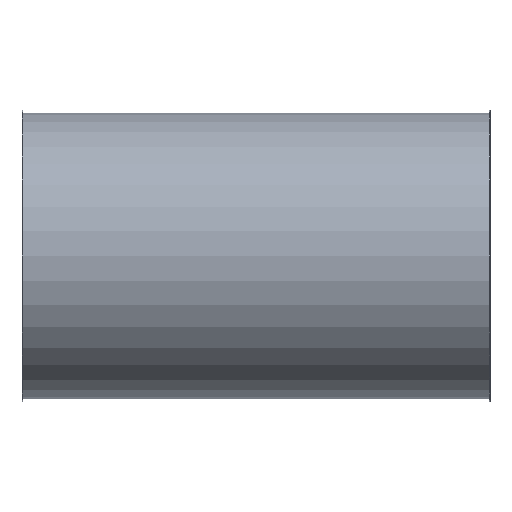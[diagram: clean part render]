
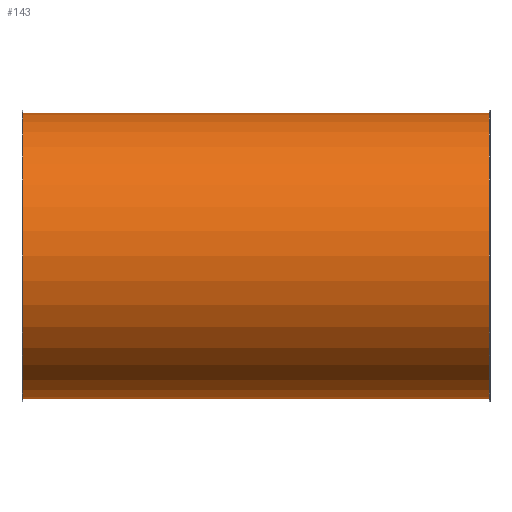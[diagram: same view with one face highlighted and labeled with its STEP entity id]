
A CAD part, front view. The second image highlights one B-rep face of the part: STEP entity #143.
In plain terms, the highlighted cylindrical face has radius 301 mm (diameter 602 mm), a full revolution.
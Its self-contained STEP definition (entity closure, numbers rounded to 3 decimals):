
#112=CARTESIAN_POINT('',(952.119,2.817,0.0));
#113=VERTEX_POINT('',#112);
#114=CARTESIAN_POINT('',(952.119,303.817,0.0));
#115=DIRECTION('',(-1.0,0.0,0.0));
#116=DIRECTION('',(0.0,-1.0,0.0));
#117=AXIS2_PLACEMENT_3D('',#114,#115,#116);
#118=CIRCLE('',#117,301.);
#119=EDGE_CURVE('',#113,#113,#118,.T.);
#124=CARTESIAN_POINT('',(461.119,303.817,0.0));
#125=DIRECTION('',(-1.0,0.,0.0));
#126=DIRECTION('',(0.0,-1.0,0.0));
#127=AXIS2_PLACEMENT_3D('',#124,#125,#126);
#128=CYLINDRICAL_SURFACE('',#127,301.);
#129=CARTESIAN_POINT('',(-29.881,2.817,0.0));
#130=VERTEX_POINT('',#129);
#131=CARTESIAN_POINT('',(-29.881,303.817,0.0));
#132=DIRECTION('',(-1.0,0.0,0.0));
#133=DIRECTION('',(0.0,-1.0,0.0));
#134=AXIS2_PLACEMENT_3D('',#131,#132,#133);
#135=CIRCLE('',#134,301.0);
#136=EDGE_CURVE('',#130,#130,#135,.T.);
#137=ORIENTED_EDGE('',*,*,#136,.F.);
#138=EDGE_LOOP('',(#137));
#139=FACE_OUTER_BOUND('',#138,.T.);
#140=ORIENTED_EDGE('',*,*,#119,.T.);
#141=EDGE_LOOP('',(#140));
#142=FACE_BOUND('',#141,.T.);
#143=ADVANCED_FACE('',(#139,#142),#128,.T.);
